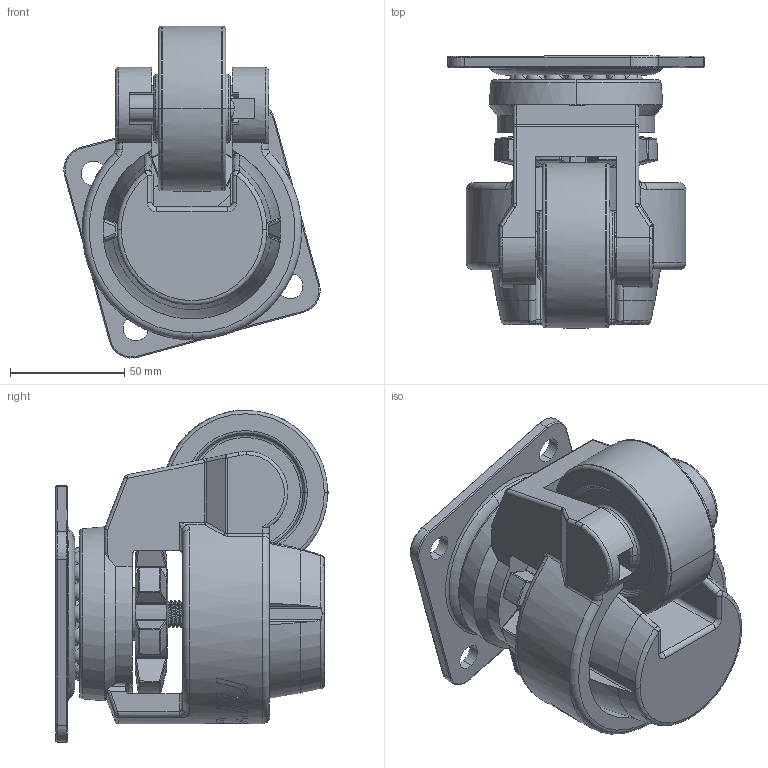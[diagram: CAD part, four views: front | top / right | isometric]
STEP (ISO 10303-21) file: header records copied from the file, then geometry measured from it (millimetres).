
FILE_DESCRIPTION (( 'STEP AP214' ), '1' );
FILE_NAME ('RSI-100-GD.STEP', '2024-05-29T06:35:34', ( '' ), ( '' ), 'SwSTEP 2.0', 'SolidWorks 2022', '' );
FILE_SCHEMA (( 'AUTOMOTIVE_DESIGN' ));
Length unit declared in the file: millimetre
Products named in the file (7): RSI-100-GD(5); RSI-100-GD; RSI-100-GD(4); RSI-100-GD(6); RSI-100-GD(2); RSI-100-GD(3); RSI-100-GD(1)
Assembly tree (21 placements, depth 2):
  RSI-100-GD
    RSI-100-GD(1)
    RSI-100-GD(2)
    RSI-100-GD(3)
    RSI-100-GD(4)
    RSI-100-GD(5)
    RSI-100-GD(6)  x16
Bounding box: 111.97 x 118.88 x 145.06 mm (x, y, z)
Volume: 600295.2 mm3; surface area: 141825.4 mm2
Topology: 23 solids, 23 shells, 898 faces, 2234 edges, 1358 vertices
Faces by surface type: cylinder 252, bspline 188, plane 160, torus 132, sphere 96, cone 70
Entity records: 54800 total; most frequent: CARTESIAN_POINT 30539, ORIENTED_EDGE 4220, DIRECTION 3618, EDGE_CURVE 2110, AXIS2_PLACEMENT_3D 1524, VERTEX_POINT 1279, EDGE_LOOP 907, ADVANCED_FACE 868
